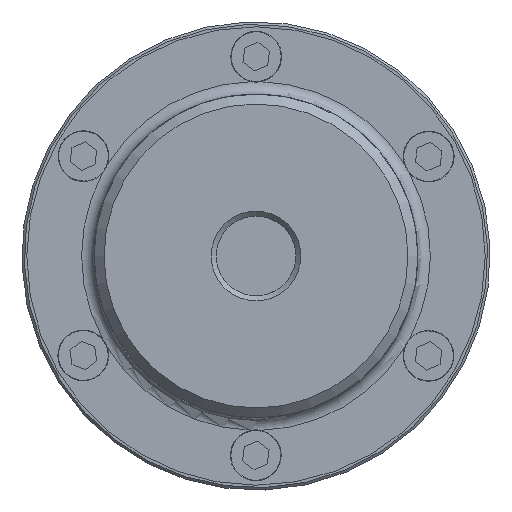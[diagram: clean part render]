
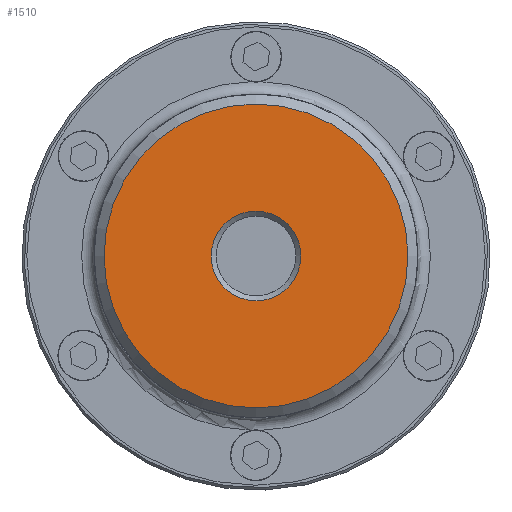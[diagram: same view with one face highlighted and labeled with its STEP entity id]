
A CAD part, left-side view. The second image highlights one B-rep face of the part: STEP entity #1510.
In plain terms, the highlighted planar face has unit normal (-1, 0, 0) as drawn and (0, 0, -1) by its records, which use the part's own axes.
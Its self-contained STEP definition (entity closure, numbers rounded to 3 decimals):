
#1510 = ADVANCED_FACE( '', ( #3005, #3006 ), #3007, .T. );
#3005 = FACE_OUTER_BOUND( '', #4652, .T. );
#3006 = FACE_BOUND( '', #4653, .T. );
#3007 = PLANE( '', #4654 );
#4652 = EDGE_LOOP( '', ( #7062 ) );
#4653 = EDGE_LOOP( '', ( #7063 ) );
#4654 = AXIS2_PLACEMENT_3D( '', #7064, #7065, #7066 );
#7062 = ORIENTED_EDGE( '', *, *, #8945, .T. );
#7063 = ORIENTED_EDGE( '', *, *, #8842, .T. );
#7064 = CARTESIAN_POINT( '', ( 0., 0., 0. ) );
#7065 = DIRECTION( '', ( 0., 0., -1. ) );
#7066 = DIRECTION( '', ( -1., 0., 0. ) );
#8842 = EDGE_CURVE( '', #10274, #10274, #10275, .F. );
#8945 = EDGE_CURVE( '', #10437, #10437, #10438, .T. );
#10274 = VERTEX_POINT( '', #12364 );
#10275 = CIRCLE( '', #12365, 9. );
#10437 = VERTEX_POINT( '', #12770 );
#10438 = CIRCLE( '', #12771, 30.5 );
#12364 = CARTESIAN_POINT( '', ( -9., 0., 0. ) );
#12365 = AXIS2_PLACEMENT_3D( '', #14873, #14874, #14875 );
#12770 = CARTESIAN_POINT( '', ( -30.5, 0., 0. ) );
#12771 = AXIS2_PLACEMENT_3D( '', #15011, #15012, #15013 );
#14873 = CARTESIAN_POINT( '', ( 0., 0., 0. ) );
#14874 = DIRECTION( '', ( 0., 0., -1. ) );
#14875 = DIRECTION( '', ( -1., 0., 0. ) );
#15011 = CARTESIAN_POINT( '', ( 0., 0., 0. ) );
#15012 = DIRECTION( '', ( 0., 0., -1. ) );
#15013 = DIRECTION( '', ( -1., 0., 0. ) );
